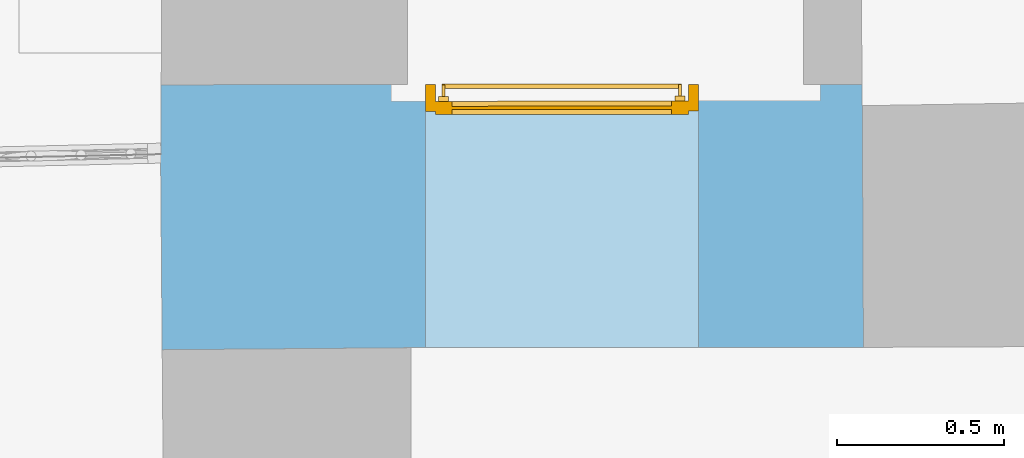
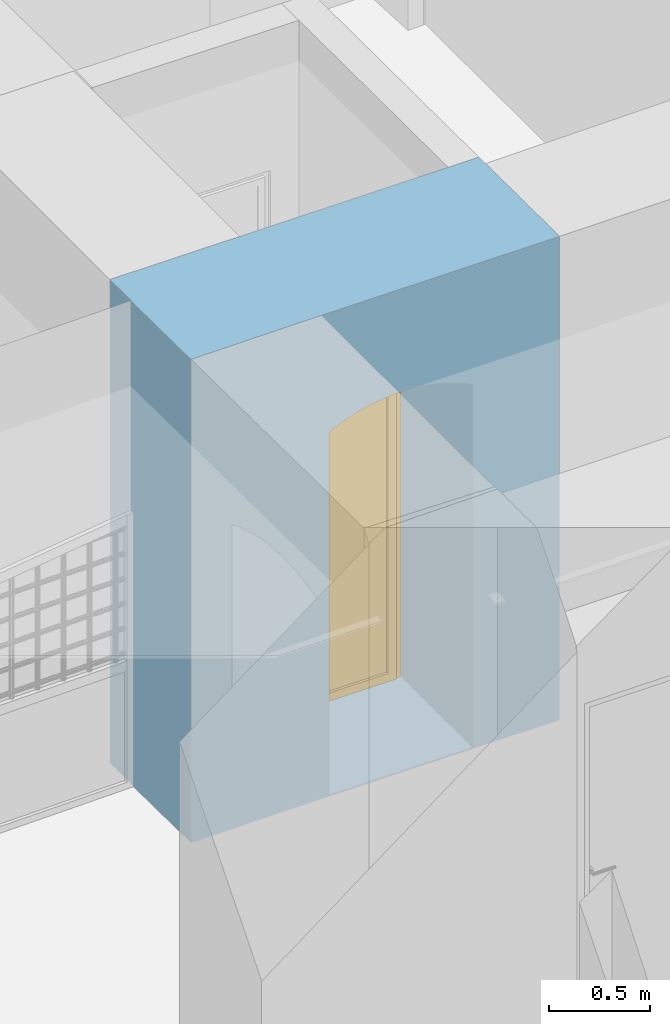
# One storey, part 108 of 133: 1 door, 1 opening, plus 1 element that does not belong to this part.
"""IFC2X3 building model written with IfcOpenShell, lengths in centimetres."""

from ifc_helpers import new_model, entity, si_unit, converted_unit, point, direction, frame, frame_2d, origin, origin_with_axes, place, context, subcontext, project, spatial, polyline, circle_curve, trimmed, segment, composite_curve, outline, extrude, faceted_brep, shape, source, transform, mapped, material, material_list, layer, layer_set, layer_usage, type_object, element, fill, save


model = new_model("IFC2X3")

# Units and contexts
model_context = context("Model", 3, precision=0.0001, world=origin(), true_north=direction((0.225632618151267, 0.974212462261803, 0.0)))
body_context = subcontext(model_context, "Body", "Model", "MODEL_VIEW")
footprint_context = subcontext(model_context, "FootPrint", "Model", "MODEL_VIEW")
profile_context = subcontext(model_context, "Profile", "Model", "MODEL_VIEW")
ifc_project = project(units=[si_unit("LENGTHUNIT", "METRE", prefix="CENTI"), si_unit("AREAUNIT", "SQUARE_METRE", prefix="CENTI"), si_unit("VOLUMEUNIT", "CUBIC_METRE", prefix="CENTI"), converted_unit("PLANEANGLEUNIT", "DEGREE", entity("IfcRatioMeasure", 0.0174532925), si_unit("PLANEANGLEUNIT", "RADIAN"), dimensions=[0, 0, 0, 0, 0, 0, 0])], contexts=[model_context])

# Site, building, storey
site_placement = place(None, origin_with_axes())
site = spatial("IfcSite", under=ifc_project, at=site_placement, Name="Default Site", CompositionType="ELEMENT")
building_placement = place(site_placement, origin_with_axes())
building = spatial("IfcBuilding", under=site, at=building_placement, Name="Default Building", CompositionType="ELEMENT")
storey_placement = place(building_placement, frame((0.0, 0.0, -291.400371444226), z_axis=(0.0, 0.0, 1.0), x_axis=(1.0, 0.0, 0.0)))
storey = spatial("IfcBuildingStorey", under=building, at=storey_placement, Name="Rez-de-Jardin", CompositionType="ELEMENT", Elevation=-291.400371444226)

# Wall, opening, door
ifc_material_1 = material(Name="<aucun>")
ifc_layer = layer(ifc_material_1, 79.0)
ifc_layer_set = layer_set([ifc_layer], Name="default")
ifc_layer_usage = layer_usage(ifc_layer_set, "AXIS2", "POSITIVE", -39.5)
wall_type = type_object("IfcWallType", Name="default 790", PredefinedType="NOTDEFINED", material=ifc_layer_set)
wall_placement = place(storey_placement, frame((304.077982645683, 193.512771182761, -1.94511073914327e-11), z_axis=(0.0, 0.0, 1.0), x_axis=(0.999999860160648, 0.000528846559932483, 0.0)))
wall = element("IfcWallStandardCase", 1, at=wall_placement, inside=storey, type_object=wall_type, material=ifc_layer_usage, Name="Enveloppe 56246", context=body_context, shape_type="SweptSolid", body=[
    extrude(outline(polyline([(-73.9490099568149, 18.5998978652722), (-73.4977505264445, -40.0751215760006), (0.137138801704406, -39.5), (129.955871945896, -39.5), (137.087582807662, -39.4715171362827), (136.797708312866, 33.1072072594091), (136.697720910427, 33.1072601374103), (136.674604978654, 39.5), (-73.7381893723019, 39.5), (-73.7711906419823, 18.6037638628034), (-73.9490099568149, 18.5998978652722)])), frame((0.0, 0.0, 4.44089209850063e-14), z_axis=(0.0, 0.0, 1.0), x_axis=(1.0, 0.0, 0.0)), (0.0, 0.0, 1.0), 291.413221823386),
])
opening_placement = place(wall_placement, frame((5.54801804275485, 0.0, 0.601514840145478), z_axis=(0.0, 0.0, 1.0), x_axis=(-1.0, -1.00722381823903e-16, 0.0)))
cartesian_point_1 = entity("IfcCartesianPoint", [-4.44089209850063e-14, 0.0, 219.0])
cartesian_point_2 = entity("IfcCartesianPoint", [-82.0000000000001, 0.0, 219.0])
cartesian_point_3 = entity("IfcCartesianPoint", [-82.0000000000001, -39.5])
opening = element("IfcOpeningElement", 2, at=opening_placement, cuts=wall, Name="4294966323_12", ObjectType="Opening", shapes=[
    shape(body_context, "Body", "SweptSolid", [extrude(outline(composite_curve([segment(polyline([(4.44089209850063e-14, 219.0), (0.0, 0.0), (82.0, 0.0), (82.0000000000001, 219.0)]), True, "CONTINUOUS"), segment(trimmed(circle_curve(frame_2d((41.0, 139.60319114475), x_axis=(1.0, 0.0)), 89.3580061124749), [point((82.0000000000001, 219.0))], [point((4.44089209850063e-14, 219.0))], True, "CARTESIAN"), True, "CONTINUOUS")], self_intersect=False)), frame((0.0, -49.5, 0.0), z_axis=(0.0, 1.0, 0.0), x_axis=(-1.0, 0.0, 0.0)), (0.0, 0.0, 1.0), 99.0)]),
    shape(profile_context, "Profile", "GeometricCurveSet", [entity("IfcGeometricCurveSet", [entity("IfcCompositeCurve", [entity("IfcCompositeCurveSegment", "CONTINUOUS", True, entity("IfcPolyline", [cartesian_point_1, entity("IfcCartesianPoint", [0.0, 0.0, 0.0]), entity("IfcCartesianPoint", [-82.0, 0.0, 0.0]), cartesian_point_2])), entity("IfcCompositeCurveSegment", "CONTINUOUS", True, entity("IfcTrimmedCurve", entity("IfcCircle", entity("IfcAxis2Placement3D", entity("IfcCartesianPoint", [-41.0000000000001, 2.22044604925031e-14, 139.60319114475]), entity("IfcDirection", [0.0, 1.0, -2.22909555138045e-15]), entity("IfcDirection", [1.0, 0.0, 0.0])), 89.3580061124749), [cartesian_point_2], [cartesian_point_1], True, "CARTESIAN"))], False)])]),
    shape(footprint_context, "FootPrint", "GeometricCurveSet", [entity("IfcGeometricCurveSet", [entity("IfcPolyline", [cartesian_point_3, entity("IfcCartesianPoint", [0.0, -39.5]), entity("IfcCartesianPoint", [0.0, 39.5]), entity("IfcCartesianPoint", [-82.0000000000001, 39.5]), cartesian_point_3])])]),
])
ifc_material_2 = material(Name="Vert clair_porte")
ifc_material_3 = material(Name="Rouge brillant")
ifc_material_list = material_list([ifc_material_2, ifc_material_3])
door_style = type_object("IfcDoorStyle", Name="Porte de Secours_1VB[1P plein]_IMP arc", ConstructionType="NOTDEFINED", OperationType="NOTDEFINED", ParameterTakesPrecedence=False, Sizeable=False, material=ifc_material_list)
shared_shape = source(origin_with_axes(), body_context, "Body", "Brep", [
    faceted_brep([(40.9999996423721, 0.0, -3.99999991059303), (40.9999996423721, 0.0, 3.99999991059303), (37.9999995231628, 0.0, 3.99999991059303), (37.9999995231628, 0.0, -3.99999991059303), (37.9999995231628, 217.07329750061, 3.99999991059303), (37.9999995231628, 217.07329750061, -3.99999991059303), (40.9999996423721, 219.000005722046, 3.99999991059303), (40.9999996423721, 219.000005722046, -3.99999991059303), (32.1381965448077, 219.754613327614, 3.99999991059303), (32.1381965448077, 219.754613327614, -3.99999991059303), (33.2559674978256, 222.542285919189, 3.99999991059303), (32.1382015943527, 219.75462436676, 3.99999991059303), (33.2559705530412, 222.5422925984, -3.99999991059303), (33.2559705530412, 222.5422925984, 3.99999991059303), (32.1382015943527, 219.75462436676, -3.99999991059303), (33.2559674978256, 222.542285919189, -3.99999991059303), (24.3625750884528, 222.449924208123, 3.99999991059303), (24.3625750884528, 222.449924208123, -3.99999991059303), (25.209903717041, 225.331330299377, 3.99999991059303), (24.3625745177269, 222.449922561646, 3.99999991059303), (25.2099032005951, 225.331328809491, -3.99999991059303), (25.2099032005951, 225.331328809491, 3.99999991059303), (24.3625745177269, 222.449922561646, -3.99999991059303), (25.209903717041, 225.331330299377, -3.99999991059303), (16.3656878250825, 224.392814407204, 3.99999991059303), (16.3656878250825, 224.392814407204, -3.99999991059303), (16.9348880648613, 227.341794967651, 3.99999991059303), (16.3656890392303, 224.392819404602, 3.99999991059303), (16.9348881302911, 227.341795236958, -3.99999991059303), (16.9348881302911, 227.341795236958, 3.99999991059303), (16.3656890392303, 224.392819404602, -3.99999991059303), (16.9348880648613, 227.341794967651, -3.99999991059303), (8.22017326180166, 225.565657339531, 3.99999991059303), (8.22017326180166, 225.565657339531, -3.99999991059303), (8.50606933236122, 228.555417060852, 3.99999991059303), (8.22017192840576, 225.565648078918, 3.99999991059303), (8.5060703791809, 228.555424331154, -3.99999991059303), (8.5060703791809, 228.555424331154, 3.99999991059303), (8.22017192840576, 225.565648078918, -3.99999991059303), (8.50606933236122, 228.555417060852, -3.99999991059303), (2.90273651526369e-07, 225.957781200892, 3.99999991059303), (2.90273651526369e-07, 225.957781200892, -3.99999991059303), (-1.90091621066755e-13, 228.961205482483, 3.99999991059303), (-1.82167649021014e-13, 225.957775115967, 3.99999991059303), (-8.04540802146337e-07, 228.961188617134, -3.99999991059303), (-8.04540802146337e-07, 228.961188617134, 3.99999991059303), (-1.82167649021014e-13, 225.957775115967, -3.99999991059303), (-1.90091621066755e-13, 228.961205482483, -3.99999991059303), (-8.22017163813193, 225.565641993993, 3.99999991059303), (-8.22017163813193, 225.565641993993, -3.99999991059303), (-8.50606933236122, 228.555417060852, 3.99999991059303), (-8.22017192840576, 225.565648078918, 3.99999991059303), (-8.50607013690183, 228.555433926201, -3.99999991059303), (-8.50607013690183, 228.555433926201, 3.99999991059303), (-8.22017192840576, 225.565648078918, -3.99999991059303), (-8.50606933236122, 228.555417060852, -3.99999991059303), (-16.3656877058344, 224.39281014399, 3.99999991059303), (-16.3656877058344, 224.39281014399, -3.99999991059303), (-16.9348880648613, 227.341794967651, 3.99999991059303), (-16.3656890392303, 224.392819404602, 3.99999991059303), (-16.9348870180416, 227.341787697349, -3.99999991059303), (-16.9348870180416, 227.341787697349, 3.99999991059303), (-16.3656890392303, 224.392819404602, -3.99999991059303), (-16.9348880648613, 227.341794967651, -3.99999991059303), (-24.3625757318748, 222.449927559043, 3.99999991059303), (-24.3625757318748, 222.449927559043, -3.99999991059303), (-25.209903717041, 225.331330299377, 3.99999991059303), (-24.3625745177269, 222.449922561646, 3.99999991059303), (-25.2099036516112, 225.33133003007, -3.99999991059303), (-25.2099036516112, 225.33133003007, 3.99999991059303), (-24.3625745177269, 222.449922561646, -3.99999991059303), (-25.209903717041, 225.331330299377, -3.99999991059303), (-32.1382010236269, 219.754622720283, 3.99999991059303), (-32.1382010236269, 219.754622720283, -3.99999991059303), (-33.2559674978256, 222.542285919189, 3.99999991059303), (-32.1382015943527, 219.75462436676, 3.99999991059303), (-33.2559680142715, 222.542287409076, -3.99999991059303), (-33.2559680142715, 222.542287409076, 3.99999991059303), (-32.1382015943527, 219.75462436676, -3.99999991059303), (-33.2559674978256, 222.542285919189, -3.99999991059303), (-38.0000045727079, 217.073308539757, 3.99999991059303), (-38.0000045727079, 217.073308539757, -3.99999991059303), (-40.9999996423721, 219.000005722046, 3.99999991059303), (-37.9999995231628, 217.07329750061, 3.99999991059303), (-40.9999965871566, 218.999999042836, -3.99999991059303), (-40.9999965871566, 218.999999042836, 3.99999991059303), (-37.9999995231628, 217.07329750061, -3.99999991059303), (-40.9999996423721, 219.000005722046, -3.99999991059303), (-37.9999995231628, 0.0, -3.99999991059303), (-37.9999995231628, 0.0, 3.99999991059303), (-40.9999996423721, 0.0, 3.99999991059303), (-40.9999996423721, 0.0, -3.99999991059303), (-37.9999995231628, 1.41956095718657e-31, 3.99999991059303), (-37.9999995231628, 1.41956095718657e-31, -3.99999991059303), (-40.9999996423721, 5.62828825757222e-31, -3.99999991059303), (-40.9999996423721, 5.62828825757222e-31, 3.99999991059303)], [[[0, 1, 2, 3]], [[3, 2, 4, 5]], [[2, 1, 6, 4]], [[1, 0, 7, 6]], [[0, 3, 5, 7]], [[5, 4, 8, 9]], [[4, 6, 10, 11]], [[6, 7, 12, 13]], [[7, 5, 14, 15]], [[14, 11, 16, 17]], [[11, 10, 18, 19]], [[10, 15, 20, 21]], [[15, 14, 22, 23]], [[22, 19, 24, 25]], [[19, 18, 26, 27]], [[18, 23, 28, 29]], [[23, 22, 30, 31]], [[30, 27, 32, 33]], [[27, 26, 34, 35]], [[26, 31, 36, 37]], [[31, 30, 38, 39]], [[38, 35, 40, 41]], [[35, 34, 42, 43]], [[34, 39, 44, 45]], [[39, 38, 46, 47]], [[46, 43, 48, 49]], [[43, 42, 50, 51]], [[42, 47, 52, 53]], [[47, 46, 54, 55]], [[54, 51, 56, 57]], [[51, 50, 58, 59]], [[50, 55, 60, 61]], [[55, 54, 62, 63]], [[62, 59, 64, 65]], [[59, 58, 66, 67]], [[58, 63, 68, 69]], [[63, 62, 70, 71]], [[70, 67, 72, 73]], [[67, 66, 74, 75]], [[66, 71, 76, 77]], [[71, 70, 78, 79]], [[78, 75, 80, 81]], [[75, 74, 82, 83]], [[74, 79, 84, 85]], [[79, 78, 86, 87]], [[88, 89, 90, 91]], [[86, 83, 92, 93]], [[83, 82, 90, 89]], [[82, 87, 94, 95]], [[87, 86, 88, 91]]]),
    faceted_brep([(-33.0000013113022, 213.872838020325, 0.999999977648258), (-33.0000013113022, 213.872838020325, 5.00000007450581), (-33.0000013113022, 5.00000007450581, 5.00000007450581), (-33.0000013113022, 5.00000007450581, 0.999999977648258), (-37.9999995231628, 217.151284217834, 5.00000007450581), (-37.9999995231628, 0.0, 5.00000007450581), (-37.9999995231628, 217.151284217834, 0.999999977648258), (-37.9999995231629, 9.08192812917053e-30, 0.999999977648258), (-37.9999995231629, 9.08192812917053e-30, 5.00000007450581), (-37.9999995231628, 0.0, 0.999999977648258), (33.0000013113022, 5.00000007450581, 5.00000007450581), (33.0000013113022, 5.00000007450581, 0.999999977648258), (37.9999995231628, 0.0, 5.00000007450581), (37.9999995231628, 0.0, 0.999999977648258), (33.0000013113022, 213.872838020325, 5.00000007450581), (33.0000013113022, 213.872838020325, 0.999999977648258), (37.9999995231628, 217.151284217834, 5.00000007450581), (37.9999995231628, 217.151284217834, 0.999999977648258), (29.0011719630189, 215.611175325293, 5.00000007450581), (29.0011719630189, 215.611175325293, 0.999999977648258), (30.7854533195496, 220.28751373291, 5.00000007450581), (29.0011703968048, 215.611171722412, 5.00000007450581), (30.7854595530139, 220.287528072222, 0.999999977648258), (30.7854595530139, 220.287528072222, 5.00000007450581), (29.0011703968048, 215.611171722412, 0.999999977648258), (30.7854533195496, 220.28751373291, 0.999999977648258), (21.9641092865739, 217.934914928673, 5.00000007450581), (21.9641092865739, 217.934914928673, 0.999999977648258), (23.3154430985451, 222.754240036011, 5.00000007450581), (21.9641104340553, 217.934918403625, 5.00000007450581), (23.3154380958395, 222.754224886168, 0.999999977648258), (23.3154380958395, 222.754224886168, 5.00000007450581), (21.9641104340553, 217.934918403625, 0.999999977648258), (23.3154430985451, 222.754240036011, 0.999999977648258), (14.7447897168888, 219.608646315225, 5.00000007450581), (14.7447897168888, 219.608646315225, 0.999999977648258), (15.6519547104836, 224.530935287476, 5.00000007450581), (14.7447884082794, 219.608640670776, 5.00000007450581), (15.6519565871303, 224.53094338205, 0.999999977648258), (15.6519565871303, 224.53094338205, 5.00000007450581), (14.7447884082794, 219.608640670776, 0.999999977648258), (15.6519547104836, 224.530935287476, 0.999999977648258), (7.40311112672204, 220.618465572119, 5.00000007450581), (7.40311112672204, 220.618465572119, 0.999999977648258), (7.85858333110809, 225.602889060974, 5.00000007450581), (7.40311071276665, 220.618462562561, 5.00000007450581), (7.85858336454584, 225.602889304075, 0.999999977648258), (7.85858336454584, 225.602889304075, 5.00000007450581), (7.40311071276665, 220.618462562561, 0.999999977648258), (7.85858333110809, 225.602889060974, 0.999999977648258), (5.83704016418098e-07, 220.956004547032, 5.00000007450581), (5.83704016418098e-07, 220.956004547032, 0.999999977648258), (2.77555756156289e-14, 225.961208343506, 5.00000007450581), (2.22044604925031e-14, 220.955991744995, 5.00000007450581), (-4.62782027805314e-07, 225.961198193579, 0.999999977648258), (-4.62782027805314e-07, 225.961198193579, 5.00000007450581), (2.22044604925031e-14, 220.955991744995, 0.999999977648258), (2.77555756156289e-14, 225.961208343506, 0.999999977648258), (-7.40311012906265, 220.618449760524, 5.00000007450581), (-7.40311012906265, 220.618449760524, 0.999999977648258), (-7.85858333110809, 225.602889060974, 5.00000007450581), (-7.40311071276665, 220.618462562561, 5.00000007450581), (-7.85858379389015, 225.602899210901, 0.999999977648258), (-7.85858379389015, 225.602899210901, 5.00000007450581), (-7.40311071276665, 220.618462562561, 0.999999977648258), (-7.85858333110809, 225.602889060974, 0.999999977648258), (-14.744787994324, 219.608637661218, 5.00000007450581), (-14.744787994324, 219.608637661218, 0.999999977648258), (-15.6519547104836, 224.530935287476, 5.00000007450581), (-14.7447884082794, 219.608640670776, 5.00000007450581), (-15.6519546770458, 224.530935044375, 0.999999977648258), (-15.6519546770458, 224.530935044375, 5.00000007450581), (-14.7447884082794, 219.608640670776, 0.999999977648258), (-15.6519547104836, 224.530935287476, 0.999999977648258), (-21.9641091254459, 217.934912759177, 5.00000007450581), (-21.9641091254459, 217.934912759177, 0.999999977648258), (-23.3154430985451, 222.754240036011, 5.00000007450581), (-21.9641104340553, 217.934918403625, 5.00000007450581), (-23.3154412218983, 222.754231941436, 0.999999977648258), (-23.3154412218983, 222.754231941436, 5.00000007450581), (-21.9641104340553, 217.934918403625, 0.999999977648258), (-23.3154430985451, 222.754240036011, 0.999999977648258), (-29.0011715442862, 215.611175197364, 5.00000007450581), (-29.0011715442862, 215.611175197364, 0.999999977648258), (-30.7854533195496, 220.28751373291, 5.00000007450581), (-29.0011703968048, 215.611171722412, 5.00000007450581), (-30.7854583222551, 220.287528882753, 0.999999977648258), (-30.7854583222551, 220.287528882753, 5.00000007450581), (-29.0011703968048, 215.611171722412, 0.999999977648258), (-30.7854533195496, 220.28751373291, 0.999999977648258), (-32.9999997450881, 213.872834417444, 5.00000007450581), (-32.9999997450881, 213.872834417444, 0.999999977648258), (-37.9999932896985, 217.151269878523, 0.999999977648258), (-37.9999932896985, 217.151269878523, 5.00000007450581)], [[[0, 1, 2, 3]], [[1, 4, 5, 2]], [[4, 6, 7, 8]], [[6, 0, 3, 9]], [[3, 2, 10, 11]], [[2, 5, 12, 10]], [[5, 9, 13, 12]], [[9, 3, 11, 13]], [[11, 10, 14, 15]], [[10, 12, 16, 14]], [[12, 13, 17, 16]], [[13, 11, 15, 17]], [[15, 14, 18, 19]], [[14, 16, 20, 21]], [[16, 17, 22, 23]], [[17, 15, 24, 25]], [[24, 21, 26, 27]], [[21, 20, 28, 29]], [[20, 25, 30, 31]], [[25, 24, 32, 33]], [[32, 29, 34, 35]], [[29, 28, 36, 37]], [[28, 33, 38, 39]], [[33, 32, 40, 41]], [[40, 37, 42, 43]], [[37, 36, 44, 45]], [[36, 41, 46, 47]], [[41, 40, 48, 49]], [[48, 45, 50, 51]], [[45, 44, 52, 53]], [[44, 49, 54, 55]], [[49, 48, 56, 57]], [[56, 53, 58, 59]], [[53, 52, 60, 61]], [[52, 57, 62, 63]], [[57, 56, 64, 65]], [[64, 61, 66, 67]], [[61, 60, 68, 69]], [[60, 65, 70, 71]], [[65, 64, 72, 73]], [[72, 69, 74, 75]], [[69, 68, 76, 77]], [[68, 73, 78, 79]], [[73, 72, 80, 81]], [[80, 77, 82, 83]], [[77, 76, 84, 85]], [[76, 81, 86, 87]], [[81, 80, 88, 89]], [[88, 85, 90, 91]], [[85, 84, 4, 1]], [[84, 89, 92, 93]], [[89, 88, 0, 6]]]),
    faceted_brep([(34.0000003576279, 113.575637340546, 0.999999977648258), (34.0000003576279, 103.57563495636, 0.999999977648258), (37.0000004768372, 103.57563495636, 0.999999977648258), (37.0000004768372, 113.575637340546, 0.999999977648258), (37.0000004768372, 113.575637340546, -0.499999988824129), (37.0000004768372, 103.57563495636, -0.499999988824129), (34.0000003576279, 103.57563495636, -0.499999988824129), (34.0000003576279, 113.575637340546, -0.499999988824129)], [[[0, 1, 2, 3]], [[4, 5, 6, 7]], [[3, 2, 5, 4]], [[2, 1, 6, 5]], [[1, 0, 7, 6]], [[0, 3, 4, 7]]]),
    faceted_brep([(34.9999994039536, 109.82563495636, -0.499999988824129), (34.9999994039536, 107.325637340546, -0.499999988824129), (36.0000014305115, 107.325637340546, -0.499999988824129), (36.0000014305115, 109.82563495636, -0.499999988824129), (36.0000014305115, 100.325632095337, -3.95454540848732), (36.0000014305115, 100.325632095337, -3.045454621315), (34.9999994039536, 100.325632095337, -3.045454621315), (34.9999994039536, 100.325632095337, -3.95454540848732), (34.9999994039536, 100.325632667, -3.04545619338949), (36.0000014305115, 100.325632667, -3.04545619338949), (36.0000014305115, 100.325632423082, -3.95454630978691), (34.9999994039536, 100.325632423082, -3.95454630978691)], [[[0, 1, 2, 3]], [[4, 5, 6, 7]], [[3, 2, 5, 4]], [[2, 1, 8, 9]], [[1, 0, 7, 6]], [[0, 3, 10, 11]]]),
    faceted_brep([(-37.0000004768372, 113.575637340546, 0.999999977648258), (-37.0000004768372, 103.57563495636, 0.999999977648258), (-34.0000003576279, 103.57563495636, 0.999999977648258), (-34.0000003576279, 113.575637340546, 0.999999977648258), (-34.0000003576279, 113.575637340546, -0.499999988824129), (-34.0000003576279, 103.57563495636, -0.499999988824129), (-37.0000004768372, 103.57563495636, -0.499999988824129), (-37.0000004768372, 113.575637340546, -0.499999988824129)], [[[0, 1, 2, 3]], [[4, 5, 6, 7]], [[3, 2, 5, 4]], [[2, 1, 6, 5]], [[1, 0, 7, 6]], [[0, 3, 4, 7]]]),
    faceted_brep([(-36.0000014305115, 109.82563495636, -0.499999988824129), (-36.0000014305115, 107.325637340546, -0.499999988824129), (-34.9999994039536, 107.325637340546, -0.499999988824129), (-34.9999994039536, 109.82563495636, -0.499999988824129), (-34.9999994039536, 100.325632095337, -3.95454540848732), (-34.9999994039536, 100.325632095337, -3.045454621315), (-36.0000014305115, 100.325632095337, -3.045454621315), (-36.0000014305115, 100.325632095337, -3.95454540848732), (-36.0000014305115, 100.325632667, -3.04545619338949), (-34.9999994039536, 100.325632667, -3.04545619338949), (-34.9999994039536, 100.325632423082, -3.95454630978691), (-36.0000014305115, 100.325632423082, -3.95454630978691)], [[[0, 1, 2, 3]], [[4, 5, 6, 7]], [[3, 2, 5, 4]], [[2, 1, 8, 9]], [[1, 0, 7, 6]], [[0, 3, 10, 11]]]),
    faceted_brep([(36.0000014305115, 97.3256349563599, -4.19999994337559), (36.0000014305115, 100.325632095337, -4.19999994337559), (36.0000014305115, 100.325632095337, -2.80000008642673), (36.0000014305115, 97.3256349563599, -2.80000008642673), (-36.0000014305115, 97.3256349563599, -2.80000008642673), (-36.0000014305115, 100.325632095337, -2.80000008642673), (-36.0000014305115, 100.325632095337, -4.19999994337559), (-36.0000014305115, 97.3256349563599, -4.19999994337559)], [[[0, 1, 2, 3]], [[4, 5, 6, 7]], [[3, 2, 5, 4]], [[2, 1, 6, 5]], [[1, 0, 7, 6]], [[0, 3, 4, 7]]]),
    faceted_brep([(-25.9659767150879, 216.706323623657, 2.5000000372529), (-18.7084421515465, 218.780970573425, 2.5000000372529), (-11.2898714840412, 220.174050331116, 2.5000000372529), (-3.77411916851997, 220.873618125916, 2.5000000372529), (3.77411916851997, 220.873618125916, 2.5000000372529), (11.2898714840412, 220.174050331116, 2.5000000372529), (18.7084421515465, 218.780970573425, 2.5000000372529), (25.9659767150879, 216.706323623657, 2.5000000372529), (33.0000013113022, 213.967990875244, 2.5000000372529), (33.0000013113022, 204.833102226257, 2.5000000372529), (-33.0000013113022, 204.833102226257, 2.5000000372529), (-33.0000013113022, 213.967990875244, 2.5000000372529), (-33.0000013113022, 213.967990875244, 3.50000001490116), (-33.0000013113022, 204.833102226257, 3.50000001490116), (33.0000013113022, 204.833102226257, 3.50000001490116), (33.0000013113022, 213.967990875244, 3.50000001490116), (25.9659767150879, 216.706323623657, 3.50000001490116), (18.7084421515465, 218.780970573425, 3.50000001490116), (11.2898714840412, 220.174050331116, 3.50000001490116), (3.77411916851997, 220.873618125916, 3.50000001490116), (-3.77411916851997, 220.873618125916, 3.50000001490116), (-11.2898714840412, 220.174050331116, 3.50000001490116), (-18.7084421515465, 218.780970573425, 3.50000001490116), (-25.9659767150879, 216.706323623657, 3.50000001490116), (25.9659733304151, 216.706314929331, 2.5000000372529), (25.9659733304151, 216.706314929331, 3.50000001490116), (18.708439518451, 218.78096136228, 2.5000000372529), (18.708439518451, 218.78096136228, 3.50000001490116), (11.2898737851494, 220.174062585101, 2.5000000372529), (11.2898737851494, 220.174062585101, 3.50000001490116), (3.77411818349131, 220.873607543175, 2.5000000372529), (3.77411818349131, 220.873607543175, 3.50000001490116), (-11.2898724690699, 220.174060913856, 2.5000000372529), (-11.2898724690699, 220.174060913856, 3.50000001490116), (-18.7084398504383, 218.78095831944, 2.5000000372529), (-18.7084398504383, 218.78095831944, 3.50000001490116), (-25.9659793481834, 216.706332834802, 2.5000000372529), (-25.9659793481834, 216.706332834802, 3.50000001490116), (-33.000004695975, 213.967999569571, 2.5000000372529), (-33.000004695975, 213.967999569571, 3.50000001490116)], [[[0, 1, 2, 3, 4, 5, 6, 7, 8, 9, 10, 11]], [[12, 13, 14, 15, 16, 17, 18, 19, 20, 21, 22, 23]], [[11, 10, 13, 12]], [[10, 9, 14, 13]], [[9, 8, 15, 14]], [[8, 24, 25, 15]], [[7, 26, 27, 16]], [[6, 28, 29, 17]], [[5, 30, 31, 18]], [[4, 3, 20, 19]], [[3, 32, 33, 20]], [[2, 34, 35, 21]], [[1, 36, 37, 22]], [[0, 38, 39, 23]]]),
    faceted_brep([(33.0000013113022, 202.833080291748, 5.00000007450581), (33.0000013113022, 202.833080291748, 0.999999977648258), (33.0000013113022, 204.833102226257, 0.999999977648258), (33.0000013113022, 204.833102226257, 5.00000007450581), (-33.0000013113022, 204.833102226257, 5.00000007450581), (-33.0000013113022, 204.833102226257, 0.999999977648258), (-33.0000013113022, 202.833080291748, 0.999999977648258), (-33.0000013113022, 202.833080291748, 5.00000007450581)], [[[0, 1, 2, 3]], [[4, 5, 6, 7]], [[3, 2, 5, 4]], [[2, 1, 6, 5]], [[1, 0, 7, 6]], [[0, 3, 4, 7]]]),
    faceted_brep([(33.0000013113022, 202.833080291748, 2.5000000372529), (33.0000013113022, 5.00000007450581, 2.5000000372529), (-33.0000013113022, 5.00000007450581, 2.5000000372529), (-33.0000013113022, 202.833080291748, 2.5000000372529), (-33.0000013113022, 202.833080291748, 3.50000001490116), (-33.0000013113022, 5.00000007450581, 3.50000001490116), (33.0000013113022, 5.00000007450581, 3.50000001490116), (33.0000013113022, 202.833080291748, 3.50000001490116)], [[[0, 1, 2, 3]], [[4, 5, 6, 7]], [[3, 2, 5, 4]], [[2, 1, 6, 5]], [[1, 0, 7, 6]], [[0, 3, 4, 7]]]),
])
door_placement = place(opening_placement, frame((-82.0, -39.5000000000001, 4.44089209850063e-16), z_axis=(0.0, 0.0, 1.0), x_axis=(1.0, 0.0, 0.0)))
door = element("IfcDoor", 3, at=door_placement, inside=storey, type_object=door_style, material=ifc_material_list, Name="Porte 78422", OverallHeight=228.961197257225, OverallWidth=82.0, context=body_context, shape_type="MappedRepresentation", body=[
    mapped(shared_shape, transform((41.0, 4.0, 8.88178419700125e-14), x_axis=(-1.0, 0.0, 0.0), y_axis=(0.0, 0.0, 1.0), z_axis=(0.0, 1.0, 0.0), scale=1.0, scale2=1.0, scale3=1.0, uniform=False)),
])
fill(opening, door)

save(model, "model.ifc")
